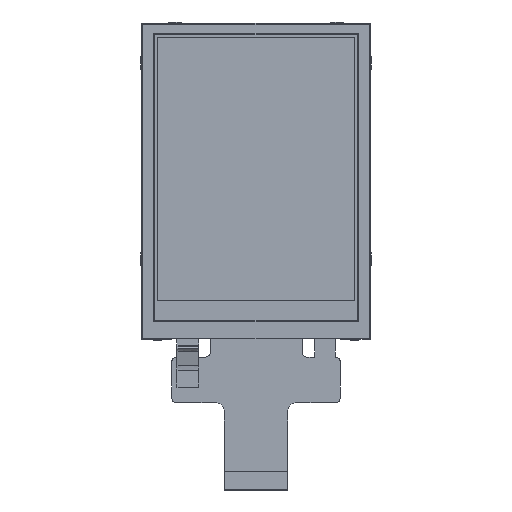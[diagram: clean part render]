
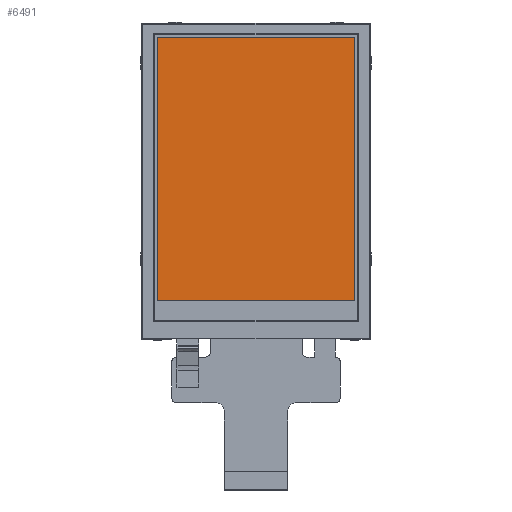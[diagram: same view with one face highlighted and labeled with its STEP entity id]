
A CAD part, top view. The second image highlights one B-rep face of the part: STEP entity #6491.
In plain terms, the highlighted planar face has unit normal (0, 0, 1).
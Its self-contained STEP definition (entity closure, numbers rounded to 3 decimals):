
#847 = CARTESIAN_POINT ( 'NONE',  ( 3.2, -60.45, 1.18 ) ) ;
#1146 = DIRECTION ( 'NONE',  ( 1., 0., 0. ) ) ;
#1358 = LINE ( 'NONE', #1915, #15805 ) ;
#1754 = VERTEX_POINT ( 'NONE', #28055 ) ;
#1915 = CARTESIAN_POINT ( 'NONE',  ( 0., -60.45, 1.18 ) ) ;
#2737 = PLANE ( 'NONE',  #34686 ) ;
#3936 = CARTESIAN_POINT ( 'NONE',  ( 0., -2.85, 1.18 ) ) ;
#6369 = LINE ( 'NONE', #3936, #30481 ) ;
#6491 = ADVANCED_FACE ( 'NONE', ( #36568 ), #2737, .T. ) ;
#6608 = CARTESIAN_POINT ( 'NONE',  ( 46.4, -60.45, 1.18 ) ) ;
#6797 = CARTESIAN_POINT ( 'NONE',  ( 0., 0., 1.18 ) ) ;
#7710 = VECTOR ( 'NONE', #27676, 1000. ) ;
#10903 = ORIENTED_EDGE ( 'NONE', *, *, #31977, .F. ) ;
#12019 = DIRECTION ( 'NONE',  ( 1., 0., 0. ) ) ;
#12816 = CARTESIAN_POINT ( 'NONE',  ( 3.2, 0., 1.18 ) ) ;
#15777 = LINE ( 'NONE', #12816, #7710 ) ;
#15805 = VECTOR ( 'NONE', #30361, 1000. ) ;
#15952 = VERTEX_POINT ( 'NONE', #847 ) ;
#16919 = CARTESIAN_POINT ( 'NONE',  ( 46.4, 0., 1.18 ) ) ;
#21118 = VERTEX_POINT ( 'NONE', #6608 ) ;
#21811 = ORIENTED_EDGE ( 'NONE', *, *, #26149, .F. ) ;
#24714 = VECTOR ( 'NONE', #30867, 1000. ) ;
#26149 = EDGE_CURVE ( 'NONE', #15952, #1754, #15777, .T. ) ;
#27010 = ORIENTED_EDGE ( 'NONE', *, *, #31805, .F. ) ;
#27676 = DIRECTION ( 'NONE',  ( 0., 1., 0. ) ) ;
#28055 = CARTESIAN_POINT ( 'NONE',  ( 3.2, -2.85, 1.18 ) ) ;
#29372 = EDGE_LOOP ( 'NONE', ( #21811, #27010, #33409, #10903 ) ) ;
#29654 = DIRECTION ( 'NONE',  ( 0., 0., 1. ) ) ;
#30361 = DIRECTION ( 'NONE',  ( -1., 0., 0. ) ) ;
#30481 = VECTOR ( 'NONE', #1146, 1000. ) ;
#30867 = DIRECTION ( 'NONE',  ( 0., -1., 0. ) ) ;
#31048 = EDGE_CURVE ( 'NONE', #34682, #21118, #33097, .T. ) ;
#31805 = EDGE_CURVE ( 'NONE', #21118, #15952, #1358, .T. ) ;
#31859 = CARTESIAN_POINT ( 'NONE',  ( 46.4, -2.85, 1.18 ) ) ;
#31977 = EDGE_CURVE ( 'NONE', #1754, #34682, #6369, .T. ) ;
#33097 = LINE ( 'NONE', #16919, #24714 ) ;
#33409 = ORIENTED_EDGE ( 'NONE', *, *, #31048, .F. ) ;
#34682 = VERTEX_POINT ( 'NONE', #31859 ) ;
#34686 = AXIS2_PLACEMENT_3D ( 'NONE', #6797, #29654, #12019 ) ;
#36568 = FACE_OUTER_BOUND ( 'NONE', #29372, .T. ) ;
